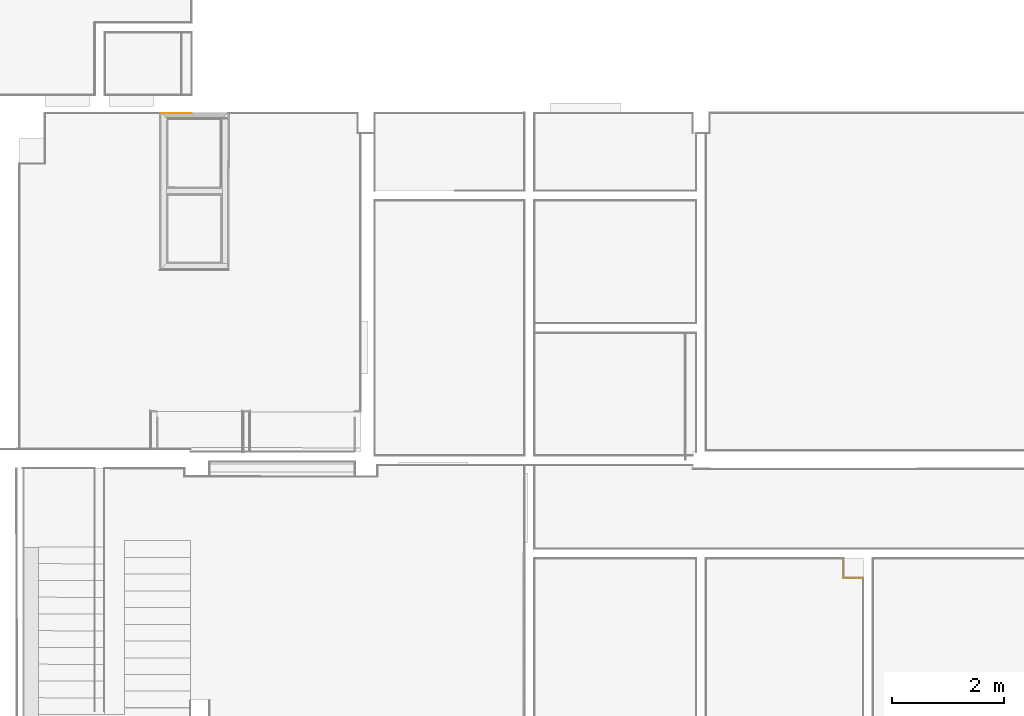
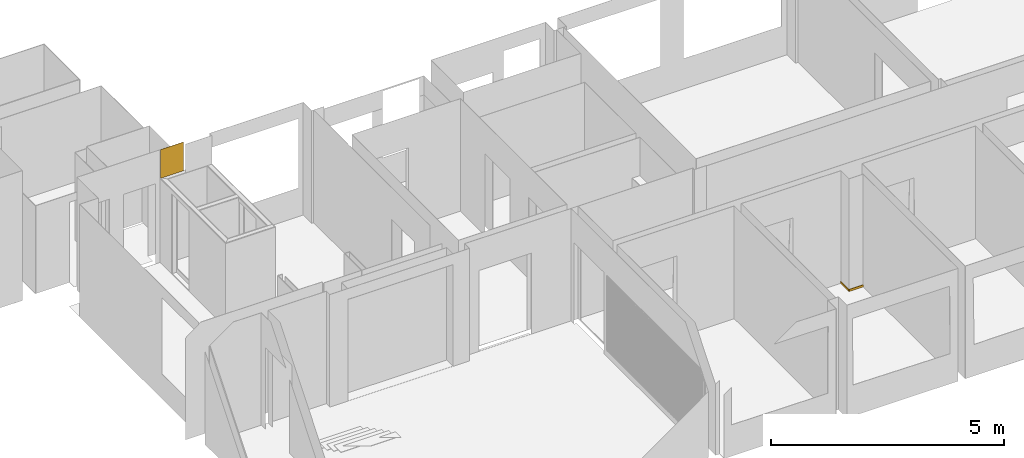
# One storey, part 29 of 33: 3 coverings.
"""IFC2X3 building model written with IfcOpenShell, lengths in millimetres."""

import ifcopenshell
import ifcopenshell.guid

model = None  # the IFC model being written
_history = None  # IfcOwnerHistory: only IFC2X3 demands one
_inside = {}  # id of a spatial element -> (the spatial element, [elements in it])
_under = {}  # id of a project, library or spatial element -> (it, [spatial elements below it])
_declared = {}  # id of a project -> (the project, [libraries it declares])
_typed = {}  # id of a type object -> (the type object, [elements of that type])
_made_of = {}  # id of a material, layer set ... -> (it, [elements and type objects made of it])


def new_model(schema):
    """Start an empty IFC model of exactly this schema.

    Asked for "IFC4X3", IfcOpenShell would pick the latest addendum, in which some entities
    have other attributes; the version numbers below select the first issue.
    IFC2X3 requires an IfcOwnerHistory on every rooted entity: one is made here for all.
    """
    global model, _history
    if schema == "IFC4X3":
        model = ifcopenshell.file(schema_version=(4, 3, 0, 0))
    else:
        model = ifcopenshell.file(schema=schema)
    _inside.clear()
    _under.clear()
    _declared.clear()
    _typed.clear()
    _made_of.clear()
    _history = None
    if model.schema == "IFC2X3":
        org = make("IfcOrganization", Name="unknown")
        user = make(
            "IfcPersonAndOrganization",
            ThePerson=make("IfcPerson", FamilyName="unknown"),
            TheOrganization=org,
        )
        app = make(
            "IfcApplication",
            ApplicationDeveloper=org,
            Version="unknown",
            ApplicationFullName="unknown",
            ApplicationIdentifier="unknown",
        )
        _history = make(
            "IfcOwnerHistory",
            OwningUser=user,
            OwningApplication=app,
            ChangeAction="ADDED",
            CreationDate=0,
        )
    return model


def make(cls, **values):
    """One entity of the class cls with the attributes given. An attribute that is None is left unset."""
    return model.create_entity(
        cls, **{name: value for name, value in values.items() if value is not None}
    )


def entity(cls, *values):
    """Any entity or typed value of the class cls, its attributes in the order of the schema. None: left unset."""
    e = model.create_entity(cls)
    for i, value in enumerate(values):
        if value is not None:
            e[i] = value
    return e


def rooted(cls, **values):
    """An entity with a GlobalId (a new one), such as an element, a storey or a relation."""
    return make(cls, GlobalId=ifcopenshell.guid.new(), OwnerHistory=_history, **values)


def si_unit(unit_type, name, prefix=None):
    """IfcSIUnit, for example si_unit("LENGTHUNIT", "METRE", prefix="MILLI")."""
    return make("IfcSIUnit", UnitType=unit_type, Prefix=prefix, Name=name)


def converted_unit(unit_type, name, factor, base, dimensions=None, offset=None):
    """IfcConversionBasedUnit, such as the inch: factor (a typed value) times the base unit."""
    return make(
        "IfcConversionBasedUnit"
        if offset is None
        else "IfcConversionBasedUnitWithOffset",
        ConversionOffset=offset,
        Dimensions=None
        if dimensions is None
        else entity("IfcDimensionalExponents", *dimensions),
        UnitType=unit_type,
        Name=name,
        ConversionFactor=make(
            "IfcMeasureWithUnit", ValueComponent=factor, UnitComponent=base
        ),
    )


def derived_unit(unit_type, elements):
    """IfcDerivedUnit: a product of units, each with its exponent."""
    return make(
        "IfcDerivedUnit",
        Elements=[
            make("IfcDerivedUnitElement", Unit=unit, Exponent=power)
            for unit, power in elements
        ],
        UnitType=unit_type,
    )


def money_unit(currency):
    """IfcMonetaryUnit."""
    return make("IfcMonetaryUnit", Currency=currency)


def assignment(units):
    """IfcUnitAssignment: the units of a project."""
    return None if units is None else make("IfcUnitAssignment", Units=units)


def point(xyz):
    """IfcCartesianPoint."""
    return None if xyz is None else make("IfcCartesianPoint", Coordinates=xyz)


def direction(xyz):
    """IfcDirection."""
    return None if xyz is None else make("IfcDirection", DirectionRatios=xyz)


def frame(location, z_axis=None, x_axis=None):
    """IfcAxis2Placement3D, a coordinate frame: its origin and axes. An axis left out is left unset."""
    return make(
        "IfcAxis2Placement3D",
        Location=point(location),
        Axis=direction(z_axis),
        RefDirection=direction(x_axis),
    )


def origin_with_axes():
    """The frame at (0, 0, 0) with the z axis (0, 0, 1) and the x axis (1, 0, 0) written out."""
    return frame((0.0, 0.0, 0.0), z_axis=(0.0, 0.0, 1.0), x_axis=(1.0, 0.0, 0.0))


def place(relative_to, where):
    """IfcLocalPlacement: puts the frame where relative to a parent placement (None: the world)."""
    return make(
        "IfcLocalPlacement", PlacementRelTo=relative_to, RelativePlacement=where
    )


def context(
    kind, dimensions, precision=None, world=None, true_north=None, identifier=None
):
    """IfcGeometricRepresentationContext, for example the 3D "Model" context."""
    return make(
        "IfcGeometricRepresentationContext",
        ContextIdentifier=identifier,
        ContextType=kind,
        CoordinateSpaceDimension=dimensions,
        Precision=precision,
        WorldCoordinateSystem=world,
        TrueNorth=true_north,
    )


def subcontext(parent, identifier, kind, view, scale=None):
    """IfcGeometricRepresentationSubContext, for example "Body" below "Model"."""
    return make(
        "IfcGeometricRepresentationSubContext",
        ContextIdentifier=identifier,
        ContextType=kind,
        ParentContext=parent,
        TargetScale=scale,
        TargetView=view,
    )


def project(units=None, contexts=None):
    """IfcProject with its units and contexts."""
    return rooted(
        "IfcProject",
        Name="project",
        RepresentationContexts=contexts,
        UnitsInContext=assignment(units),
    )


def spatial(cls, under=None, at=None, **own):
    """A site, building, storey or space (cls), placed at a placement, below another one or the project."""
    s = rooted(cls, ObjectPlacement=at, **own)
    if under is not None:
        _under.setdefault(under.id(), (under, []))[1].append(s)
    return s


def polyline(points):
    """IfcPolyline through the points."""
    return make("IfcPolyline", Points=[point(p) for p in points])


def outline(outer, holes=None, kind="AREA"):
    """IfcArbitraryClosedProfileDef: a profile drawn as a closed curve; with holes, ...WithVoids."""
    if holes is None:
        return make("IfcArbitraryClosedProfileDef", ProfileType=kind, OuterCurve=outer)
    return make(
        "IfcArbitraryProfileDefWithVoids",
        ProfileType=kind,
        OuterCurve=outer,
        InnerCurves=holes,
    )


def extrude(swept, where, along, depth):
    """IfcExtrudedAreaSolid: the profile swept, set in the frame where, extruded along a direction by depth."""
    return make(
        "IfcExtrudedAreaSolid",
        SweptArea=swept,
        Position=where,
        ExtrudedDirection=direction(along),
        Depth=depth,
    )


def shape(context_of_items, identifier, shape_type, items):
    """IfcShapeRepresentation: the items that make up one representation, for example the "Body"."""
    return make(
        "IfcShapeRepresentation",
        ContextOfItems=context_of_items,
        RepresentationIdentifier=identifier,
        RepresentationType=shape_type,
        Items=items,
    )


def material(Name=None, Category=None):
    """IfcMaterial."""
    return make("IfcMaterial", Name=Name, Category=Category)


def made_of(thing, what):
    """Note that an element or type object is made of a material, layer set ...; save() writes the relation."""
    if what is not None:
        _made_of.setdefault(what.id(), (what, []))[1].append(thing)
    return thing


def type_object(cls, material=None, **own):
    """A type object (cls), such as IfcWallType, which elements share."""
    return made_of(rooted(cls, **own), material)


def element(
    cls,
    number,
    at=None,
    inside=None,
    cuts=None,
    type_object=None,
    material=None,
    context=None,
    identifier="Body",
    shape_type=None,
    held_by="IfcProductDefinitionShape",
    body=None,
    shapes=None,
    **own,
):
    """One element of the class cls, such as IfcWall. Its Tag is "e" and its number.

    at: its placement. inside: the storey or other place that contains it. cuts: it is an
    opening in that element (IfcRelVoidsElement). A single representation is given by context,
    identifier, shape_type and body (its items); several are given by shapes. held_by: the class
    of the entity that holds the representations. save() writes the other relations.
    """
    e = rooted(cls, Tag="e%d" % number, ObjectPlacement=at, **own)
    if body is not None:
        shapes = [shape(context, identifier, shape_type, body)]
    if shapes is not None:
        e.Representation = make(held_by, Representations=shapes)
    if inside is not None:
        _inside.setdefault(inside.id(), (inside, []))[1].append(e)
    if cuts is not None:
        rooted(
            "IfcRelVoidsElement", RelatingBuildingElement=cuts, RelatedOpeningElement=e
        )
    if type_object is not None:
        _typed.setdefault(type_object.id(), (type_object, []))[1].append(e)
    return made_of(e, material)


def aggregate(whole, parts):
    """IfcRelAggregates: a whole, such as a stair, and the parts it consists of."""
    return rooted("IfcRelAggregates", RelatingObject=whole, RelatedObjects=parts)


def save(model, path):
    """Write the relations noted so far, then the file.

    IfcRelAggregates (storeys below a building ...), IfcRelContainedInSpatialStructure (elements
    in a storey), IfcRelDefinesByType, IfcRelAssociatesMaterial and IfcRelDeclares: one each for
    every whole, place, type object, material and project.
    """
    for whole, parts in _under.values():
        aggregate(whole, parts)
    for where, things in _inside.values():
        rooted(
            "IfcRelContainedInSpatialStructure",
            RelatedElements=things,
            RelatingStructure=where,
        )
    for kind, things in _typed.values():
        rooted("IfcRelDefinesByType", RelatedObjects=things, RelatingType=kind)
    for what, things in _made_of.values():
        rooted("IfcRelAssociatesMaterial", RelatedObjects=things, RelatingMaterial=what)
    for by, libraries in _declared.values():
        rooted("IfcRelDeclares", RelatingContext=by, RelatedDefinitions=libraries)
    model.write(path)


model = new_model("IFC2X3")

# Units and contexts
model_context = context("Model", 3, precision=0.01, world=origin_with_axes(), true_north=direction((0.0, 1.0)))
body_context = subcontext(model_context, "Body", "Model", "MODEL_VIEW")
ifc_project = project(units=[si_unit("LENGTHUNIT", "METRE", prefix="MILLI"), si_unit("AREAUNIT", "SQUARE_METRE"), si_unit("VOLUMEUNIT", "CUBIC_METRE"), converted_unit("PLANEANGLEUNIT", "DEGREE", entity("IfcPlaneAngleMeasure", 0.0174532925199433), si_unit("PLANEANGLEUNIT", "RADIAN"), dimensions=[0, 0, 0, 0, 0, 0, 0]), money_unit("EUR"), converted_unit("TIMEUNIT", "Year", entity("IfcTimeMeasure", 31556926.0), si_unit("TIMEUNIT", "SECOND"), dimensions=[0, 0, 1, 0, 0, 0, 0]), si_unit("MASSUNIT", "GRAM", prefix="KILO"), si_unit("THERMODYNAMICTEMPERATUREUNIT", "DEGREE_CELSIUS"), si_unit("LUMINOUSINTENSITYUNIT", "LUMEN"), si_unit("ENERGYUNIT", "JOULE", prefix="MEGA"), derived_unit("THERMALCONDUCTANCEUNIT", [(si_unit("POWERUNIT", "WATT"), 1), (si_unit("LENGTHUNIT", "METRE"), -1), (si_unit("THERMODYNAMICTEMPERATUREUNIT", "KELVIN"), -1)]), derived_unit("SPECIFICHEATCAPACITYUNIT", [(si_unit("ENERGYUNIT", "JOULE"), 1), (si_unit("MASSUNIT", "GRAM", prefix="KILO"), -1), (si_unit("THERMODYNAMICTEMPERATUREUNIT", "KELVIN"), -1)]), derived_unit("MASSDENSITYUNIT", [(si_unit("MASSUNIT", "GRAM", prefix="KILO"), 1), (si_unit("VOLUMEUNIT", "CUBIC_METRE"), -1)])], contexts=[model_context])

# Site, building, storey
site_placement = place(None, origin_with_axes())
site = spatial("IfcSite", under=ifc_project, at=site_placement, Name="Paldiski mnt 245/1, Tallinn, Harjumaa", CompositionType="COMPLEX")
building_placement = place(site_placement, origin_with_axes())
building = spatial("IfcBuilding", under=site, at=building_placement, Name="RKAS Hoone üldnimetus (kasutust iseloomustav) -> IFC Project Manager -> SOLIBRI", CompositionType="ELEMENT")
storey_placement = place(building_placement, origin_with_axes())
storey = spatial("IfcBuildingStorey", under=building, at=storey_placement, Name="Esimene korrus", CompositionType="ELEMENT", Elevation=0.0)

# Coverings
ifc_material_1 = material(Name="SA- Värv SM5(valge)")
covering_type_1 = type_object("IfcCoveringType", Name="SA- Värv SM5(valge) 5", PredefinedType="CLADDING")
covering_1_placement = place(storey_placement, frame((-45122.39486697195, -109.9999999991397, 2200.0), z_axis=(0.0, 0.0, 1.0), x_axis=(1.0, 0.0, 0.0)))
element("IfcCovering", 1, at=covering_1_placement, inside=storey, type_object=covering_type_1, material=ifc_material_1, Name="SM5", PredefinedType="CLADDING", context=body_context, shape_type="SweptSolid", body=[
    extrude(outline(polyline([(-3.301892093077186e-08, -5.000000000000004), (561.8444083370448, -5.000000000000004), (561.8444083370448, 0.0), (0.0, 0.0), (-3.301892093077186e-08, -5.000000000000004)])), origin_with_axes(), (0.0, 0.0, 1.0), 750.0),
])
ifc_material_2 = material(Name="RAL 9007")
covering_type_2 = type_object("IfcCoveringType", Name="PL-2 10 x 60", PredefinedType="CEILING")
covering_2_placement = place(storey_placement, frame((-32885.00000000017, -8434.999999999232, 0.0), z_axis=(0.0, 0.0, 1.0), x_axis=(0.0, -1.0, 0.0)))
element("IfcCovering", 2, at=covering_2_placement, inside=storey, type_object=covering_type_2, material=ifc_material_2, Name="RL-1", PredefinedType="CEILING", context=body_context, shape_type="SweptSolid", body=[
    extrude(outline(polyline([(4.581164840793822e-05, 0.1024684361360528), (9.972160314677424, 0.2484425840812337), (9.964465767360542, 56.43892199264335), (5.587010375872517, 60.2436094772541), (4.31977507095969, 60.21903012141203), (0.02696597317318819, 60.13576662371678), (4.581164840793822e-05, 0.1024684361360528)])), frame((0.0, 350.0000000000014, 0.0), z_axis=(0.0, -1.0, 0.0), x_axis=(1.0, 0.0, 0.0)), (0.0, 0.0, 1.0), 350.0000000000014),
])
covering_3_placement = place(storey_placement, frame((-32885.38359877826, -8084.999999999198, 0.0), z_axis=(0.0, 0.0, 1.0), x_axis=(-0.9999993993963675, -0.00109599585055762, 0.0)))
element("IfcCovering", 3, at=covering_3_placement, inside=storey, type_object=covering_type_2, material=ifc_material_2, Name="RL-1", PredefinedType="CEILING", context=body_context, shape_type="SweptSolid", body=[
    extrude(outline(polyline([(4.581164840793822e-05, 0.1024684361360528), (9.972160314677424, 0.2484425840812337), (9.964465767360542, 56.43892199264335), (5.587010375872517, 60.2436094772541), (4.31977507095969, 60.21903012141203), (0.02696597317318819, 60.13576662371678), (4.581164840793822e-05, 0.1024684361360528)])), frame((0.0, 350.0002102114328, 0.0), z_axis=(0.0, -1.0, 0.0), x_axis=(1.0, 0.0, 0.0)), (0.0, 0.0, 1.0), 350.0002102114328),
])

save(model, "model.ifc")
